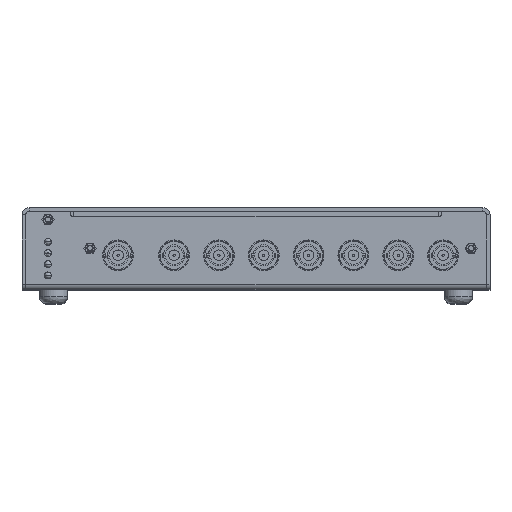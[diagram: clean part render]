
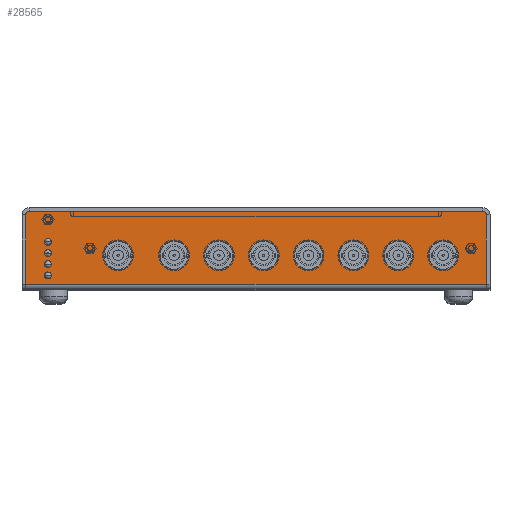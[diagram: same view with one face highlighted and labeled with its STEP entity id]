
A CAD part, top view. The second image highlights one B-rep face of the part: STEP entity #28565.
In plain terms, the highlighted planar face has unit normal (0, 0, 1).
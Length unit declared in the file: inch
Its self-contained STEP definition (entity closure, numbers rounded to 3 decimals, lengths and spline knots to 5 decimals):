
#28052=CARTESIAN_POINT('',(-4.049,1.334,0.005));
#28053=DIRECTION('',(0.,0.,1.));
#28054=DIRECTION('',(0.,1.,0.));
#28055=AXIS2_PLACEMENT_3D('',#28052,#28053,#28054);
#28070=DIRECTION('',(-1.,0.,0.));
#28071=VECTOR('',#28070,8.098);
#28072=CARTESIAN_POINT('',(4.049,1.397,0.005));
#28073=LINE('',#28072,#28071);
#28078=CARTESIAN_POINT('',(4.049,1.334,0.005));
#28079=DIRECTION('',(0.,0.,1.));
#28080=DIRECTION('',(1.,0.,0.));
#28081=AXIS2_PLACEMENT_3D('',#28078,#28079,#28080);
#28100=DIRECTION('',(0.,1.,0.));
#28101=VECTOR('',#28100,1.239);
#28102=CARTESIAN_POINT('',(4.112,0.095,0.005));
#28103=LINE('',#28102,#28101);
#28108=DIRECTION('',(0.,1.,0.));
#28109=VECTOR('',#28108,1.239);
#28110=CARTESIAN_POINT('',(-4.112,0.095,0.005));
#28111=LINE('',#28110,#28109);
#28116=DIRECTION('',(-1.,0.,0.));
#28117=VECTOR('',#28116,8.224);
#28118=CARTESIAN_POINT('',(4.112,0.095,0.005));
#28119=LINE('',#28118,#28117);
#28120=CARTESIAN_POINT('',(-2.462,0.612,0.005));
#28121=DIRECTION('',(0.,0.,-1.));
#28122=DIRECTION('',(-1.,0.,0.));
#28123=AXIS2_PLACEMENT_3D('',#28120,#28121,#28122);
#28125=CARTESIAN_POINT('',(-2.462,0.612,0.005));
#28126=DIRECTION('',(0.,0.,-1.));
#28127=DIRECTION('',(1.,0.,0.));
#28128=AXIS2_PLACEMENT_3D('',#28125,#28126,#28127);
#28130=CARTESIAN_POINT('',(-1.462,0.612,0.005));
#28131=DIRECTION('',(0.,0.,-1.));
#28132=DIRECTION('',(-1.,0.,0.));
#28133=AXIS2_PLACEMENT_3D('',#28130,#28131,#28132);
#28135=CARTESIAN_POINT('',(-1.462,0.612,0.005));
#28136=DIRECTION('',(0.,0.,-1.));
#28137=DIRECTION('',(1.,0.,0.));
#28138=AXIS2_PLACEMENT_3D('',#28135,#28136,#28137);
#28140=CARTESIAN_POINT('',(-0.662,0.612,0.005));
#28141=DIRECTION('',(0.,0.,-1.));
#28142=DIRECTION('',(-1.,0.,0.));
#28143=AXIS2_PLACEMENT_3D('',#28140,#28141,#28142);
#28145=CARTESIAN_POINT('',(-0.662,0.612,0.005));
#28146=DIRECTION('',(0.,0.,-1.));
#28147=DIRECTION('',(1.,0.,0.));
#28148=AXIS2_PLACEMENT_3D('',#28145,#28146,#28147);
#28150=CARTESIAN_POINT('',(0.138,0.612,0.005));
#28151=DIRECTION('',(0.,0.,-1.));
#28152=DIRECTION('',(-1.,0.,0.));
#28153=AXIS2_PLACEMENT_3D('',#28150,#28151,#28152);
#28155=CARTESIAN_POINT('',(0.138,0.612,0.005));
#28156=DIRECTION('',(0.,0.,-1.));
#28157=DIRECTION('',(1.,0.,0.));
#28158=AXIS2_PLACEMENT_3D('',#28155,#28156,#28157);
#28160=CARTESIAN_POINT('',(0.938,0.612,0.005));
#28161=DIRECTION('',(0.,0.,-1.));
#28162=DIRECTION('',(-1.,0.,0.));
#28163=AXIS2_PLACEMENT_3D('',#28160,#28161,#28162);
#28165=CARTESIAN_POINT('',(0.938,0.612,0.005));
#28166=DIRECTION('',(0.,0.,-1.));
#28167=DIRECTION('',(1.,0.,0.));
#28168=AXIS2_PLACEMENT_3D('',#28165,#28166,#28167);
#28170=CARTESIAN_POINT('',(1.738,0.612,0.005));
#28171=DIRECTION('',(0.,0.,-1.));
#28172=DIRECTION('',(-1.,0.,0.));
#28173=AXIS2_PLACEMENT_3D('',#28170,#28171,#28172);
#28175=CARTESIAN_POINT('',(1.738,0.612,0.005));
#28176=DIRECTION('',(0.,0.,-1.));
#28177=DIRECTION('',(1.,0.,0.));
#28178=AXIS2_PLACEMENT_3D('',#28175,#28176,#28177);
#28180=CARTESIAN_POINT('',(2.538,0.612,0.005));
#28181=DIRECTION('',(0.,0.,-1.));
#28182=DIRECTION('',(-1.,0.,0.));
#28183=AXIS2_PLACEMENT_3D('',#28180,#28181,#28182);
#28185=CARTESIAN_POINT('',(2.538,0.612,0.005));
#28186=DIRECTION('',(0.,0.,-1.));
#28187=DIRECTION('',(1.,0.,0.));
#28188=AXIS2_PLACEMENT_3D('',#28185,#28186,#28187);
#28190=CARTESIAN_POINT('',(3.338,0.612,0.005));
#28191=DIRECTION('',(0.,0.,-1.));
#28192=DIRECTION('',(-1.,0.,0.));
#28193=AXIS2_PLACEMENT_3D('',#28190,#28191,#28192);
#28195=CARTESIAN_POINT('',(3.338,0.612,0.005));
#28196=DIRECTION('',(0.,0.,-1.));
#28197=DIRECTION('',(1.,0.,0.));
#28198=AXIS2_PLACEMENT_3D('',#28195,#28196,#28197);
#28265=CARTESIAN_POINT('',(4.112,0.095,0.005));
#28267=VERTEX_POINT('',#28265);
#28270=CARTESIAN_POINT('',(-4.112,0.095,0.005));
#28271=VERTEX_POINT('',#28270);
#28272=CARTESIAN_POINT('',(-4.049,1.397,0.005));
#28274=VERTEX_POINT('',#28272);
#28276=CARTESIAN_POINT('',(-4.112,1.334,0.005));
#28277=VERTEX_POINT('',#28276);
#28280=CARTESIAN_POINT('',(4.112,1.334,0.005));
#28282=VERTEX_POINT('',#28280);
#28284=CARTESIAN_POINT('',(4.049,1.397,0.005));
#28285=VERTEX_POINT('',#28284);
#28292=CARTESIAN_POINT('',(-2.722,0.612,0.005));
#28293=CARTESIAN_POINT('',(-2.202,0.612,0.005));
#28294=VERTEX_POINT('',#28292);
#28295=VERTEX_POINT('',#28293);
#28300=CARTESIAN_POINT('',(-1.722,0.612,0.005));
#28301=CARTESIAN_POINT('',(-1.202,0.612,0.005));
#28302=VERTEX_POINT('',#28300);
#28303=VERTEX_POINT('',#28301);
#28308=CARTESIAN_POINT('',(-0.922,0.612,0.005));
#28309=CARTESIAN_POINT('',(-0.402,0.612,0.005));
#28310=VERTEX_POINT('',#28308);
#28311=VERTEX_POINT('',#28309);
#28316=CARTESIAN_POINT('',(-0.122,0.612,0.005));
#28317=CARTESIAN_POINT('',(0.398,0.612,0.005));
#28318=VERTEX_POINT('',#28316);
#28319=VERTEX_POINT('',#28317);
#28324=CARTESIAN_POINT('',(0.678,0.612,0.005));
#28325=CARTESIAN_POINT('',(1.198,0.612,0.005));
#28326=VERTEX_POINT('',#28324);
#28327=VERTEX_POINT('',#28325);
#28332=CARTESIAN_POINT('',(1.478,0.612,0.005));
#28333=CARTESIAN_POINT('',(1.998,0.612,0.005));
#28334=VERTEX_POINT('',#28332);
#28335=VERTEX_POINT('',#28333);
#28340=CARTESIAN_POINT('',(2.278,0.612,0.005));
#28341=CARTESIAN_POINT('',(2.798,0.612,0.005));
#28342=VERTEX_POINT('',#28340);
#28343=VERTEX_POINT('',#28341);
#28348=CARTESIAN_POINT('',(3.078,0.612,0.005));
#28349=CARTESIAN_POINT('',(3.598,0.612,0.005));
#28350=VERTEX_POINT('',#28348);
#28351=VERTEX_POINT('',#28349);
#28504=CARTESIAN_POINT('',(4.112,0.095,0.005));
#28505=DIRECTION('',(0.,0.,-1.));
#28506=DIRECTION('',(0.,1.,0.));
#28507=AXIS2_PLACEMENT_3D('',#28504,#28505,#28506);
#28508=PLANE('',#28507);
#28509=ORIENTED_EDGE('',*,*,#28427,.F.);
#28510=ORIENTED_EDGE('',*,*,#28444,.F.);
#28511=ORIENTED_EDGE('',*,*,#28456,.F.);
#28512=ORIENTED_EDGE('',*,*,#28472,.F.);
#28513=ORIENTED_EDGE('',*,*,#28485,.T.);
#28514=ORIENTED_EDGE('',*,*,#28497,.T.);
#28515=EDGE_LOOP('',(#28509,#28510,#28511,#28512,#28513,#28514));
#28516=FACE_OUTER_BOUND('',#28515,.F.);
#28518=ORIENTED_EDGE('',*,*,#28517,.F.);
#28520=ORIENTED_EDGE('',*,*,#28519,.F.);
#28521=EDGE_LOOP('',(#28518,#28520));
#28522=FACE_BOUND('',#28521,.F.);
#28524=ORIENTED_EDGE('',*,*,#28523,.F.);
#28526=ORIENTED_EDGE('',*,*,#28525,.F.);
#28527=EDGE_LOOP('',(#28524,#28526));
#28528=FACE_BOUND('',#28527,.F.);
#28530=ORIENTED_EDGE('',*,*,#28529,.F.);
#28532=ORIENTED_EDGE('',*,*,#28531,.F.);
#28533=EDGE_LOOP('',(#28530,#28532));
#28534=FACE_BOUND('',#28533,.F.);
#28536=ORIENTED_EDGE('',*,*,#28535,.F.);
#28538=ORIENTED_EDGE('',*,*,#28537,.F.);
#28539=EDGE_LOOP('',(#28536,#28538));
#28540=FACE_BOUND('',#28539,.F.);
#28542=ORIENTED_EDGE('',*,*,#28541,.F.);
#28544=ORIENTED_EDGE('',*,*,#28543,.F.);
#28545=EDGE_LOOP('',(#28542,#28544));
#28546=FACE_BOUND('',#28545,.F.);
#28548=ORIENTED_EDGE('',*,*,#28547,.F.);
#28550=ORIENTED_EDGE('',*,*,#28549,.F.);
#28551=EDGE_LOOP('',(#28548,#28550));
#28552=FACE_BOUND('',#28551,.F.);
#28554=ORIENTED_EDGE('',*,*,#28553,.F.);
#28556=ORIENTED_EDGE('',*,*,#28555,.F.);
#28557=EDGE_LOOP('',(#28554,#28556));
#28558=FACE_BOUND('',#28557,.F.);
#28560=ORIENTED_EDGE('',*,*,#28559,.F.);
#28562=ORIENTED_EDGE('',*,*,#28561,.F.);
#28563=EDGE_LOOP('',(#28560,#28562));
#28564=FACE_BOUND('',#28563,.F.);
#28565=ADVANCED_FACE('',(#28516,#28522,#28528,#28534,#28540,#28546,#28552,
#28558,#28564),#28508,.F.);
#28056=CIRCLE('',#28055,0.063);
#28082=CIRCLE('',#28081,0.063);
#28124=CIRCLE('',#28123,0.26);
#28129=CIRCLE('',#28128,0.26);
#28134=CIRCLE('',#28133,0.26);
#28139=CIRCLE('',#28138,0.26);
#28144=CIRCLE('',#28143,0.26);
#28149=CIRCLE('',#28148,0.26);
#28154=CIRCLE('',#28153,0.26);
#28159=CIRCLE('',#28158,0.26);
#28164=CIRCLE('',#28163,0.26);
#28169=CIRCLE('',#28168,0.26);
#28174=CIRCLE('',#28173,0.26);
#28179=CIRCLE('',#28178,0.26);
#28184=CIRCLE('',#28183,0.26);
#28189=CIRCLE('',#28188,0.26);
#28194=CIRCLE('',#28193,0.26);
#28199=CIRCLE('',#28198,0.26);
#28427=EDGE_CURVE('',#28274,#28277,#28056,.T.);
#28444=EDGE_CURVE('',#28285,#28274,#28073,.T.);
#28456=EDGE_CURVE('',#28282,#28285,#28082,.T.);
#28472=EDGE_CURVE('',#28267,#28282,#28103,.T.);
#28485=EDGE_CURVE('',#28267,#28271,#28119,.T.);
#28497=EDGE_CURVE('',#28271,#28277,#28111,.T.);
#28517=EDGE_CURVE('',#28294,#28295,#28124,.T.);
#28519=EDGE_CURVE('',#28295,#28294,#28129,.T.);
#28523=EDGE_CURVE('',#28302,#28303,#28134,.T.);
#28525=EDGE_CURVE('',#28303,#28302,#28139,.T.);
#28529=EDGE_CURVE('',#28310,#28311,#28144,.T.);
#28531=EDGE_CURVE('',#28311,#28310,#28149,.T.);
#28535=EDGE_CURVE('',#28318,#28319,#28154,.T.);
#28537=EDGE_CURVE('',#28319,#28318,#28159,.T.);
#28541=EDGE_CURVE('',#28326,#28327,#28164,.T.);
#28543=EDGE_CURVE('',#28327,#28326,#28169,.T.);
#28547=EDGE_CURVE('',#28334,#28335,#28174,.T.);
#28549=EDGE_CURVE('',#28335,#28334,#28179,.T.);
#28553=EDGE_CURVE('',#28342,#28343,#28184,.T.);
#28555=EDGE_CURVE('',#28343,#28342,#28189,.T.);
#28559=EDGE_CURVE('',#28350,#28351,#28194,.T.);
#28561=EDGE_CURVE('',#28351,#28350,#28199,.T.);
